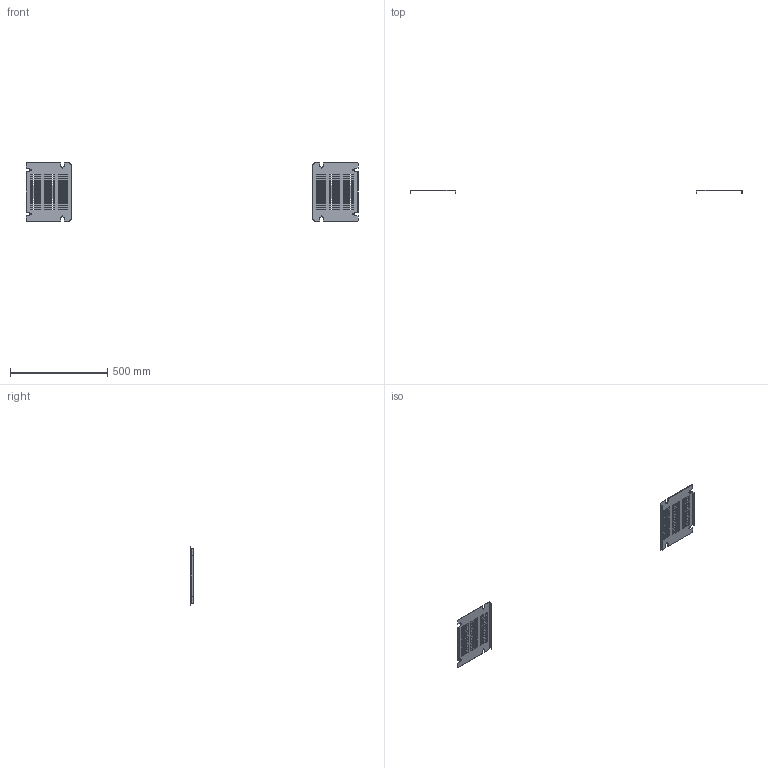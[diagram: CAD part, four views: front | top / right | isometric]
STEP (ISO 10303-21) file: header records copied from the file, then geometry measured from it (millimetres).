
FILE_DESCRIPTION(('CAx-IF Rec.Pracs.---Model Styling and Organization---1.2---2011-12-15','CAx-IF Rec.Pracs.---Geometric and Assembly Validation Properties---4.1---2014-06-16','CAx-IF Rec.Pracs.---PMI Polyline Presentation---2.0---2013-05-24'),'2;1');
FILE_NAME('R5CPFAP433.stp','2021-05-06T03:32:21+03:00',(''),(''),'STEP Interface 4.4 by CT CoreTechnologie','3D_Evolution4.4 by CT CoreTechnologie','');
FILE_SCHEMA(('AUTOMOTIVE_DESIGN { 1 0 10303 214 1 1 1 1 }'));
Length unit declared in the file: millimetre
Products named in the file (2): R5CPFAP433; RB.0543.00.00.0_-00
Assembly tree (2 placements, depth 2):
  R5CPFAP433
    RB.0543.00.00.0_-00  x2
Bounding box: 1704.5 x 15 x 299 mm (x, y, z)
Surface area: 293216.6 mm2 (no closed solid volume)
Topology: 0 solids, 2 shells, 572 faces, 1680 edges, 1112 vertices
Faces by surface type: plane 548, cylinder 24
Entity records: 9649 total; most frequent: CARTESIAN_POINT 1685, ORIENTED_EDGE 1680, DIRECTION 1442, EDGE_CURVE 840, VECTOR 816, LINE 816, VERTEX_POINT 556, EDGE_LOOP 408
